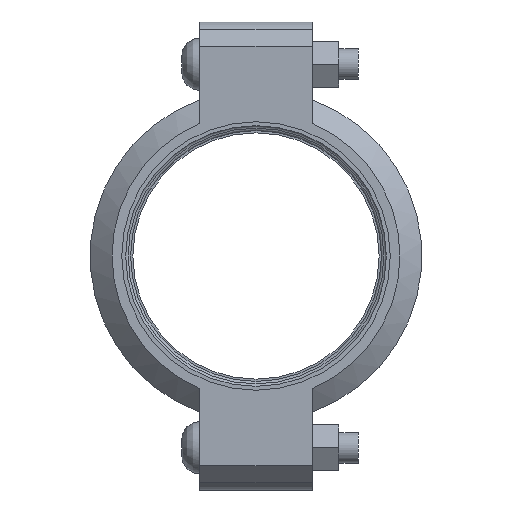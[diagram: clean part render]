
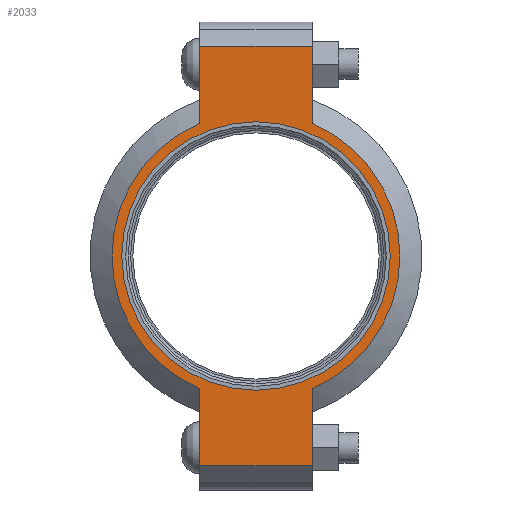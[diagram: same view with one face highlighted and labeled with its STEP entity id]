
A CAD part, left-side view. The second image highlights one B-rep face of the part: STEP entity #2033.
In plain terms, the highlighted planar face has unit normal (-1, 0, 0) as drawn and (0, 0, 1) by its records, which use the part's own axes.
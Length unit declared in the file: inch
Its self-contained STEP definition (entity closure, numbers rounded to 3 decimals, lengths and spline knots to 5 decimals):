
#166=LINE('',#3626,#265);
#174=LINE('',#3662,#273);
#181=LINE('',#3683,#280);
#190=LINE('',#3715,#289);
#191=LINE('',#3719,#290);
#192=LINE('',#3721,#291);
#265=VECTOR('',#2972,0.3937);
#273=VECTOR('',#2988,0.3937);
#280=VECTOR('',#3007,0.3937);
#289=VECTOR('',#3032,0.3937);
#290=VECTOR('',#3037,0.3937);
#291=VECTOR('',#3038,0.3937);
#351=FACE_BOUND('',#621,.T.);
#397=PLANE('',#2398);
#493=FACE_OUTER_BOUND('',#620,.T.);
#620=EDGE_LOOP('',(#1762,#1763,#1764,#1765,#1766,#1767,#1768,#1769));
#621=EDGE_LOOP('',(#1770));
#768=CIRCLE('',#2340,2.75);
#794=CIRCLE('',#2399,2.95);
#795=CIRCLE('',#2400,2.95);
#919=VERTEX_POINT('',#3442);
#962=VERTEX_POINT('',#3623);
#963=VERTEX_POINT('',#3625);
#974=VERTEX_POINT('',#3657);
#975=VERTEX_POINT('',#3661);
#982=VERTEX_POINT('',#3680);
#983=VERTEX_POINT('',#3682);
#993=VERTEX_POINT('',#3718);
#994=VERTEX_POINT('',#3720);
#1156=EDGE_CURVE('',#919,#919,#768,.T.);
#1217=EDGE_CURVE('',#963,#962,#166,.T.);
#1231=EDGE_CURVE('',#975,#974,#174,.T.);
#1241=EDGE_CURVE('',#983,#982,#181,.T.);
#1256=EDGE_CURVE('',#975,#962,#190,.T.);
#1257=EDGE_CURVE('',#974,#983,#794,.T.);
#1258=EDGE_CURVE('',#993,#982,#191,.T.);
#1259=EDGE_CURVE('',#993,#994,#192,.T.);
#1260=EDGE_CURVE('',#994,#963,#795,.T.);
#1762=ORIENTED_EDGE('',*,*,#1256,.F.);
#1763=ORIENTED_EDGE('',*,*,#1231,.T.);
#1764=ORIENTED_EDGE('',*,*,#1257,.T.);
#1765=ORIENTED_EDGE('',*,*,#1241,.T.);
#1766=ORIENTED_EDGE('',*,*,#1258,.F.);
#1767=ORIENTED_EDGE('',*,*,#1259,.T.);
#1768=ORIENTED_EDGE('',*,*,#1260,.T.);
#1769=ORIENTED_EDGE('',*,*,#1217,.T.);
#1770=ORIENTED_EDGE('',*,*,#1156,.T.);
#2033=ADVANCED_FACE('',(#493,#351),#397,.T.);
#2340=AXIS2_PLACEMENT_3D('',#3444,#2848,#2849);
#2398=AXIS2_PLACEMENT_3D('',#3716,#3033,#3034);
#2399=AXIS2_PLACEMENT_3D('',#3717,#3035,#3036);
#2400=AXIS2_PLACEMENT_3D('',#3722,#3039,#3040);
#2848=DIRECTION('center_axis',(0.,0.,-1.));
#2849=DIRECTION('ref_axis',(1.,0.,0.));
#2972=DIRECTION('',(1.,0.,0.));
#2988=DIRECTION('',(-1.,0.,0.));
#3007=DIRECTION('',(-1.,0.,0.));
#3032=DIRECTION('',(0.,-1.,0.));
#3033=DIRECTION('center_axis',(0.,0.,1.));
#3034=DIRECTION('ref_axis',(-1.,0.,0.));
#3035=DIRECTION('center_axis',(0.,0.,1.));
#3036=DIRECTION('ref_axis',(1.,0.,0.));
#3037=DIRECTION('',(0.,1.,0.));
#3038=DIRECTION('',(1.,0.,0.));
#3039=DIRECTION('center_axis',(0.,0.,1.));
#3040=DIRECTION('ref_axis',(1.,0.,0.));
#3442=CARTESIAN_POINT('',(-2.75,0.,1.065));
#3444=CARTESIAN_POINT('Origin',(0.,0.,1.065));
#3623=CARTESIAN_POINT('',(4.295,-1.15,1.065));
#3625=CARTESIAN_POINT('',(2.71662,-1.15,1.065));
#3626=CARTESIAN_POINT('',(4.795,-1.15,1.065));
#3657=CARTESIAN_POINT('',(2.71662,1.15,1.065));
#3661=CARTESIAN_POINT('',(4.295,1.15,1.065));
#3662=CARTESIAN_POINT('',(-4.795,1.15,1.065));
#3680=CARTESIAN_POINT('',(-4.295,1.15,1.065));
#3682=CARTESIAN_POINT('',(-2.71662,1.15,1.065));
#3683=CARTESIAN_POINT('',(-4.795,1.15,1.065));
#3715=CARTESIAN_POINT('',(4.295,-0.575,1.065));
#3716=CARTESIAN_POINT('Origin',(0.,0.,
1.065));
#3717=CARTESIAN_POINT('Origin',(0.,0.,1.065));
#3718=CARTESIAN_POINT('',(-4.295,-1.15,1.065));
#3719=CARTESIAN_POINT('',(-4.295,0.575,1.065));
#3720=CARTESIAN_POINT('',(-2.71662,-1.15,1.065));
#3721=CARTESIAN_POINT('',(4.795,-1.15,1.065));
#3722=CARTESIAN_POINT('Origin',(0.,0.,1.065));
